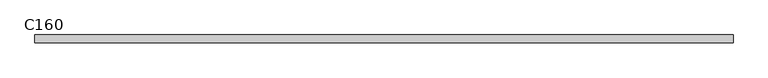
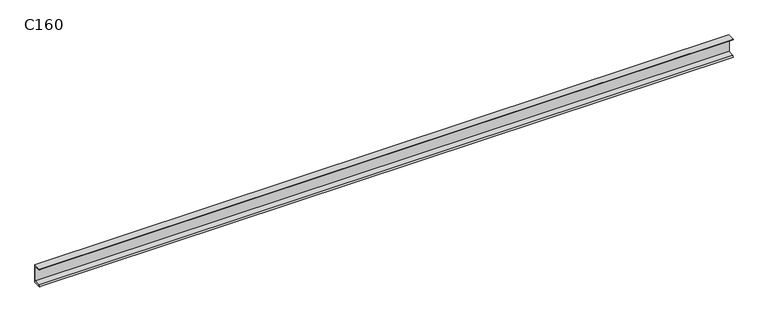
"""IFC4 building model written with IfcOpenShell, lengths in millimetres: beam geometry, RPLN C - Ceowniki normalne : C160."""

from ifc_helpers import new_model, si_unit, point, frame, frame_2d, origin, place, context, project, spatial, polyline, circle_curve, trimmed, segment, composite_curve, outline, extrude, source, transform, mapped, element, save


def c160_9241be16(model_context):
    return source(origin(), model_context, "Body", "SweptSolid", [
        extrude(outline(composite_curve([segment(polyline([(18.4, 80.0), (18.4, -80.0), (-46.6, -80.0)]), True, "CONTINUOUS"), segment(trimmed(circle_curve(frame_2d((-36.1, -80.0)), 10.5), [point((-46.6, -80.0))], [point((-36.1, -69.5))], False, "CARTESIAN"), True, "CONTINUOUS"), segment(polyline([(-36.1, -69.5), (10.9, -62.0559313), (10.9, 62.0559313), (-36.1, 69.5)]), True, "CONTINUOUS"), segment(trimmed(circle_curve(frame_2d((-36.1, 80.0)), 10.5), [point((-36.1, 69.5))], [point((-46.6, 80.0))], False, "CARTESIAN"), True, "CONTINUOUS"), segment(polyline([(-46.6, 80.0), (18.4, 80.0)]), True, "CONTINUOUS")], self_intersect=False)), frame((-2963.0464211, 0.0, 0.0), z_axis=(1.0, 0.0, 0.0), x_axis=(0.0, 1.0, 0.0)), (0.0, 0.0, 1.0), 5898.1421079),
    ])


if __name__ == "__main__":
    model = new_model("IFC4")
    model_context = context("Model", 3, world=origin())
    ifc_project = project(units=[si_unit("LENGTHUNIT", "METRE", prefix="MILLI")], contexts=[model_context])
    site = spatial("IfcSite", under=ifc_project)
    building = spatial("IfcBuilding", under=site)
    placement = place(None, origin())
    c160_shape = c160_9241be16(model_context)
    element("IfcBeam", 1, ObjectType="RPLN C - Ceowniki normalne : C160", at=placement, inside=building, context=model_context, shape_type="MappedRepresentation", body=[
        mapped(c160_shape, transform((0.0, 0.0, 0.0), x_axis=(1.0, 0.0, 0.0), y_axis=(0.0, 1.0, 0.0), z_axis=(0.0, 0.0, 1.0))),
    ])
    save(model, "model.ifc")
